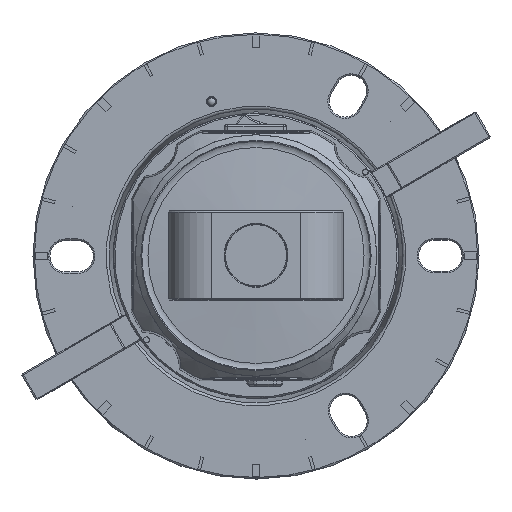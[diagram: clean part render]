
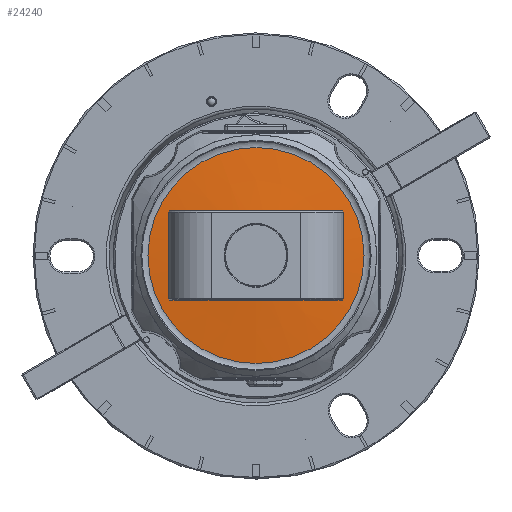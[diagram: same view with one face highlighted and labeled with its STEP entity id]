
A CAD part, top view. The second image highlights one B-rep face of the part: STEP entity #24240.
In plain terms, the highlighted conical face has half-angle 85 degrees and reference radius 14.497 mm.
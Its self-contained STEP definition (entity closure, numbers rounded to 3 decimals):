
#20164=CONICAL_SURFACE('',#63297,14.497,85.);
#24240=ADVANCED_FACE('',(#33107,#33108),#20164,.T.);
#33107=FACE_BOUND('',#35684,.T.);
#33108=FACE_BOUND('',#35685,.T.);
#35684=EDGE_LOOP('',(#43977));
#35685=EDGE_LOOP('',(#43978));
#43977=ORIENTED_EDGE('',*,*,#57036,.F.);
#43978=ORIENTED_EDGE('',*,*,#57035,.T.);
#51616=VERTEX_POINT('',#89031);
#51617=VERTEX_POINT('',#89034);
#57035=EDGE_CURVE('',#51616,#51616,#60502,.T.);
#57036=EDGE_CURVE('',#51617,#51617,#60503,.T.);
#60502=CIRCLE('',#63294,14.497);
#60503=CIRCLE('',#63296,36.319);
#63294=AXIS2_PLACEMENT_3D('',#89030,#71095,#71096);
#63296=AXIS2_PLACEMENT_3D('',#89033,#71099,#71100);
#63297=AXIS2_PLACEMENT_3D('',#89035,#71101,#71102);
#71095=DIRECTION('',(0.,0.,-1.));
#71096=DIRECTION('',(0.,-1.,0.));
#71099=DIRECTION('',(0.,0.,-1.));
#71100=DIRECTION('',(0.,-1.,0.));
#71101=DIRECTION('',(0.,0.,-1.));
#71102=DIRECTION('',(0.,-1.,0.));
#89030=CARTESIAN_POINT('',(-93.113,118.749,94.592));
#89031=CARTESIAN_POINT('',(-93.113,104.252,94.592));
#89033=CARTESIAN_POINT('',(-93.113,118.749,92.683));
#89034=CARTESIAN_POINT('',(-93.113,82.43,92.683));
#89035=CARTESIAN_POINT('',(-93.113,118.749,94.592));
